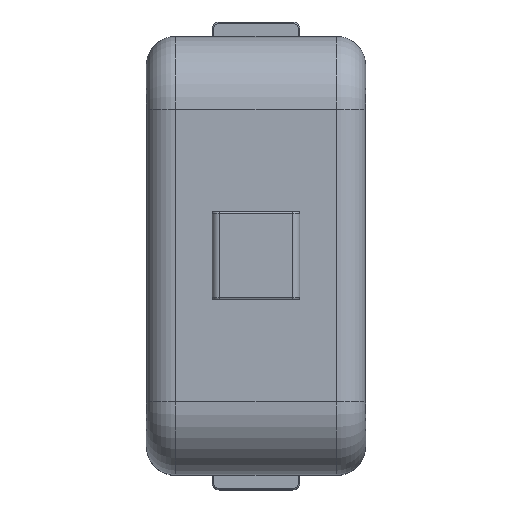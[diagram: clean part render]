
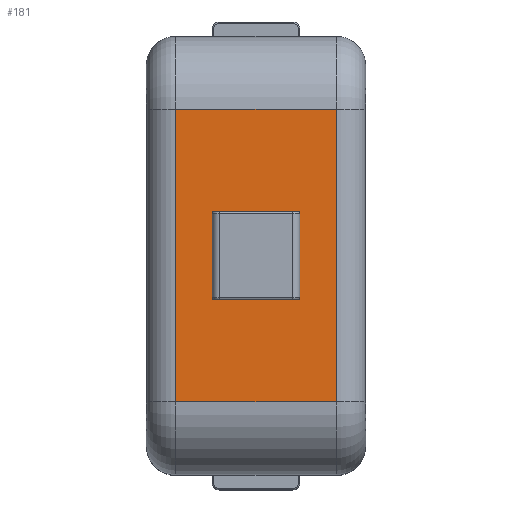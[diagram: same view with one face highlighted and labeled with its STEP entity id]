
A CAD part, top view. The second image highlights one B-rep face of the part: STEP entity #181.
In plain terms, the highlighted planar face has unit normal (0, 0, 1).
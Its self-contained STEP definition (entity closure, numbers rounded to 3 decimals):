
#103=FACE_BOUND('',#381,.F.);
#181=ADVANCED_FACE('',(#103,#279),#931,.T.);
#279=FACE_OUTER_BOUND('',#382,.F.);
#381=EDGE_LOOP('',(#611,#612,#613,#614,#615,#616,#617,#618));
#382=EDGE_LOOP('',(#619,#620,#621,#622));
#611=ORIENTED_EDGE('',*,*,#1572,.T.);
#612=ORIENTED_EDGE('',*,*,#1518,.T.);
#613=ORIENTED_EDGE('',*,*,#1571,.T.);
#614=ORIENTED_EDGE('',*,*,#1519,.T.);
#615=ORIENTED_EDGE('',*,*,#1566,.T.);
#616=ORIENTED_EDGE('',*,*,#1520,.T.);
#617=ORIENTED_EDGE('',*,*,#1565,.T.);
#618=ORIENTED_EDGE('',*,*,#1517,.T.);
#619=ORIENTED_EDGE('',*,*,#1538,.F.);
#620=ORIENTED_EDGE('',*,*,#1502,.T.);
#621=ORIENTED_EDGE('',*,*,#1535,.T.);
#622=ORIENTED_EDGE('',*,*,#1523,.F.);
#931=PLANE('',#2152);
#1341=CIRCLE('',#2064,0.1);
#1342=CIRCLE('',#2065,0.1);
#1347=CIRCLE('',#2070,0.1);
#1348=CIRCLE('',#2071,0.1);
#1502=EDGE_CURVE('',#1917,#1922,#1700,.T.);
#1517=EDGE_CURVE('',#1872,#1876,#1711,.T.);
#1518=EDGE_CURVE('',#1875,#1883,#1712,.T.);
#1519=EDGE_CURVE('',#1885,#1864,#1713,.T.);
#1520=EDGE_CURVE('',#1865,#1874,#1714,.T.);
#1523=EDGE_CURVE('',#1916,#1919,#1716,.T.);
#1535=EDGE_CURVE('',#1922,#1919,#1725,.T.);
#1538=EDGE_CURVE('',#1917,#1916,#1728,.T.);
#1565=EDGE_CURVE('',#1874,#1872,#1341,.T.);
#1566=EDGE_CURVE('',#1864,#1865,#1342,.T.);
#1571=EDGE_CURVE('',#1883,#1885,#1347,.T.);
#1572=EDGE_CURVE('',#1876,#1875,#1348,.T.);
#1700=LINE('',#3013,#1806);
#1711=LINE('',#3028,#1817);
#1712=LINE('',#3029,#1818);
#1713=LINE('',#3030,#1819);
#1714=LINE('',#3031,#1820);
#1716=LINE('',#3034,#1822);
#1725=LINE('',#3046,#1831);
#1728=LINE('',#3049,#1834);
#1806=VECTOR('',#2357,20.);
#1817=VECTOR('',#2376,5.8);
#1818=VECTOR('',#2377,5.8);
#1819=VECTOR('',#2378,5.8);
#1820=VECTOR('',#2379,5.8);
#1822=VECTOR('',#2383,20.);
#1831=VECTOR('',#2398,11.);
#1834=VECTOR('',#2401,11.);
#1864=VERTEX_POINT('',#2801);
#1865=VERTEX_POINT('',#2802);
#1872=VERTEX_POINT('',#2809);
#1874=VERTEX_POINT('',#2811);
#1875=VERTEX_POINT('',#2812);
#1876=VERTEX_POINT('',#2813);
#1883=VERTEX_POINT('',#2820);
#1885=VERTEX_POINT('',#2822);
#1916=VERTEX_POINT('',#2853);
#1917=VERTEX_POINT('',#2854);
#1919=VERTEX_POINT('',#2856);
#1922=VERTEX_POINT('',#2859);
#2064=AXIS2_PLACEMENT_3D('',#3076,#2452,#2453);
#2065=AXIS2_PLACEMENT_3D('',#3077,#2454,#2455);
#2070=AXIS2_PLACEMENT_3D('',#3082,#2464,#2465);
#2071=AXIS2_PLACEMENT_3D('',#3083,#2466,#2467);
#2152=AXIS2_PLACEMENT_3D('',#3166,#2630,#2631);
#2357=DIRECTION('',(0.,1.,0.));
#2376=DIRECTION('',(0.,1.,0.));
#2377=DIRECTION('',(-1.,0.,0.));
#2378=DIRECTION('',(0.,-1.,0.));
#2379=DIRECTION('',(1.,0.,0.));
#2383=DIRECTION('',(0.,1.,0.));
#2398=DIRECTION('',(1.,0.,0.));
#2401=DIRECTION('',(1.,0.,0.));
#2452=DIRECTION('',(0.,0.,1.));
#2453=DIRECTION('',(0.,-1.,0.));
#2454=DIRECTION('',(0.,0.,1.));
#2455=DIRECTION('',(-1.,0.,0.));
#2464=DIRECTION('',(0.,0.,1.));
#2465=DIRECTION('',(0.,1.,0.));
#2466=DIRECTION('',(0.,0.,1.));
#2467=DIRECTION('',(1.,0.,0.));
#2630=DIRECTION('',(0.,0.,1.));
#2631=DIRECTION('',(0.,1.,0.));
#2801=CARTESIAN_POINT('',(-265.25,243.1,-358.25));
#2802=CARTESIAN_POINT('',(-265.15,243.,-358.25));
#2809=CARTESIAN_POINT('',(-259.25,243.1,-358.25));
#2811=CARTESIAN_POINT('',(-259.35,243.,-358.25));
#2812=CARTESIAN_POINT('',(-259.35,249.,-358.25));
#2813=CARTESIAN_POINT('',(-259.25,248.9,-358.25));
#2820=CARTESIAN_POINT('',(-265.15,249.,-358.25));
#2822=CARTESIAN_POINT('',(-265.25,248.9,-358.25));
#2853=CARTESIAN_POINT('',(-256.75,236.,-358.25));
#2854=CARTESIAN_POINT('',(-267.75,236.,-358.25));
#2856=CARTESIAN_POINT('',(-256.75,256.,-358.25));
#2859=CARTESIAN_POINT('',(-267.75,256.,-358.25));
#3013=CARTESIAN_POINT('',(-267.75,236.,-358.25));
#3028=CARTESIAN_POINT('',(-259.25,243.1,-358.25));
#3029=CARTESIAN_POINT('',(-259.35,249.,-358.25));
#3030=CARTESIAN_POINT('',(-265.25,248.9,-358.25));
#3031=CARTESIAN_POINT('',(-265.15,243.,-358.25));
#3034=CARTESIAN_POINT('',(-256.75,236.,-358.25));
#3046=CARTESIAN_POINT('',(-267.75,256.,-358.25));
#3049=CARTESIAN_POINT('',(-267.75,236.,-358.25));
#3076=CARTESIAN_POINT('',(-259.35,243.1,-358.25));
#3077=CARTESIAN_POINT('',(-265.15,243.1,-358.25));
#3082=CARTESIAN_POINT('',(-265.15,248.9,-358.25));
#3083=CARTESIAN_POINT('',(-259.35,248.9,-358.25));
#3166=CARTESIAN_POINT('',(-254.75,231.,-358.25));
